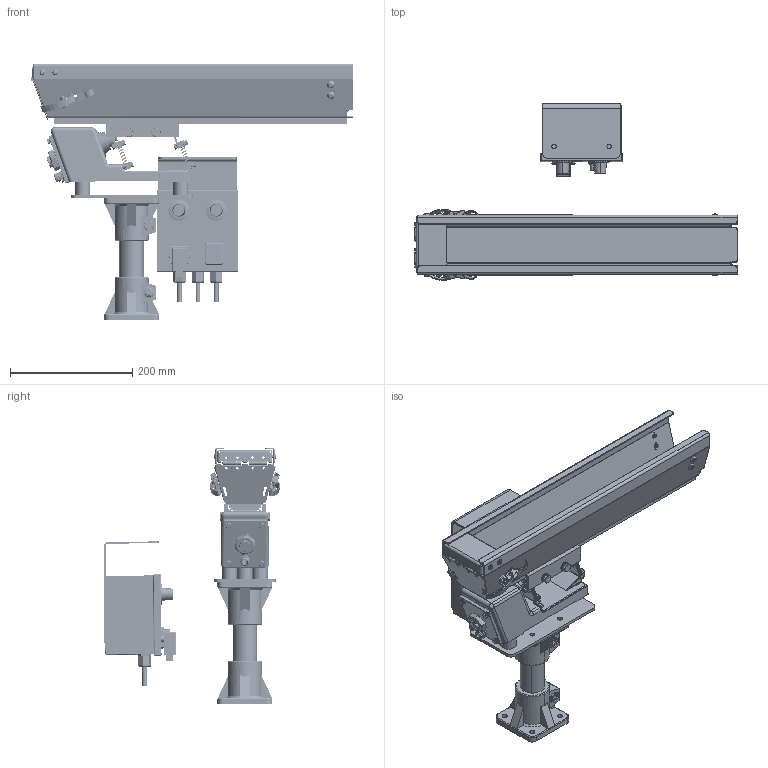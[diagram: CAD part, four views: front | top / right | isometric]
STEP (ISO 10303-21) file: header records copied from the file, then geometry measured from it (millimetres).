
FILE_DESCRIPTION (( 'STEP AP214' ), '1' );
FILE_NAME ('GM000771..step', '2026-10-16T13:01:07', ( '' ), ( '' ), 'SwSTEP 2.0', 'SolidWorks 2025', '' );
FILE_SCHEMA (( 'AUTOMOTIVE_DESIGN' ));
Length unit declared in the file: millimetre
Products named in the file (32): PD000067; CM000305; CM000432; PD003251; PD003252; CM000559; CM000561; PD003250_001; CE000026; CM000306_001; CM000305_002; CM000922; SM000080; CM000921; PD003253; CM000934; PD003255; PD003250_002; CM000924; CM000306; CM000306_003; PD003257; CM000305_003; CM000925; PD003254; GM000771.; CM000979; PD003250; CM000306_002; CM000727; CM000305_001
Assembly tree (44 placements, depth 3):
  CM000922
  CM000921
  CM000924
  CM000925
  GM000771.
    CM000561  x4
    CM000979  x4
    CM000559  x4
    PD003250
      PD003250_001
      PD003250_002
    PD003251
    CM000727
    PD003252
    CM000305
      CM000305_001
      CM000305_003
      CM000305_002
    CM000305
      CM000305_001
      CM000305_003
      CM000305_002
    CM000306  x2
      CM000306_001
      CM000306_002
      CM000306_003
    PD003253
    PD003254
    PD003255
    PD003257
    CM000432  x2
    SM000080
    PD000067
    CE000026
    CM000934  x4
Bounding box: 527.6 x 288.7 x 418.89 mm (x, y, z)
Volume: 3542410.3 mm3; surface area: 938733.4 mm2
Topology: 42 solids, 67 shells, 6632 faces, 17995 edges, 11594 vertices
Faces by surface type: cylinder 4452, plane 1358, cone 528, torus 210, bspline 42, sphere 42
Entity records: 122198 total; most frequent: CARTESIAN_POINT 35652, ORIENTED_EDGE 18464, DIRECTION 16439, EDGE_CURVE 9232, AXIS2_PLACEMENT_3D 6468, VERTEX_POINT 5851, EDGE_LOOP 3959, ADVANCED_FACE 3616
